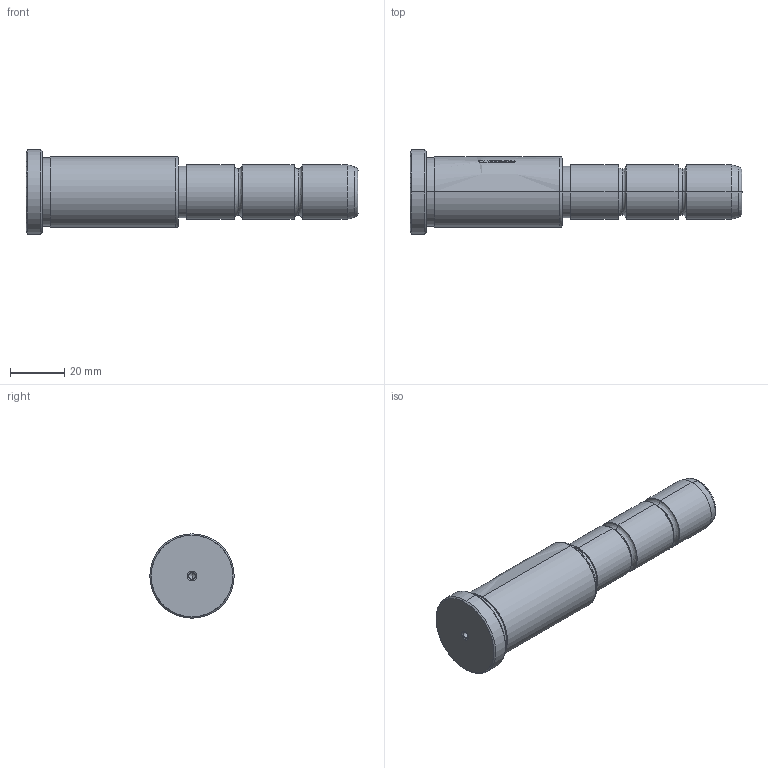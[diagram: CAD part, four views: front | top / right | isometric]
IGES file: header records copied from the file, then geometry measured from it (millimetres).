
Start section: SolidWorks IGES file using analytic representation for surfaces
Global section: file name: D:\TRIVECTOR\2026\08_Agosto\CM - COLUNA PRINCIPAL E31 (CATÁLOGO)\CM20056066.IGS; native system: SolidWorks 2024; preprocessor: SolidWorks 2024; author: Usuario; date: 260827.185424; units: millimetre
Bounding box: 122 x 31 x 31 mm (x, y, z)
Surface area: 10557.5 mm2 (no closed solid volume)
Topology: 0 solids, 0 shells, 472 faces, 4901 edges, 4897 vertices
Faces by surface type: bspline 392, revolution 80
